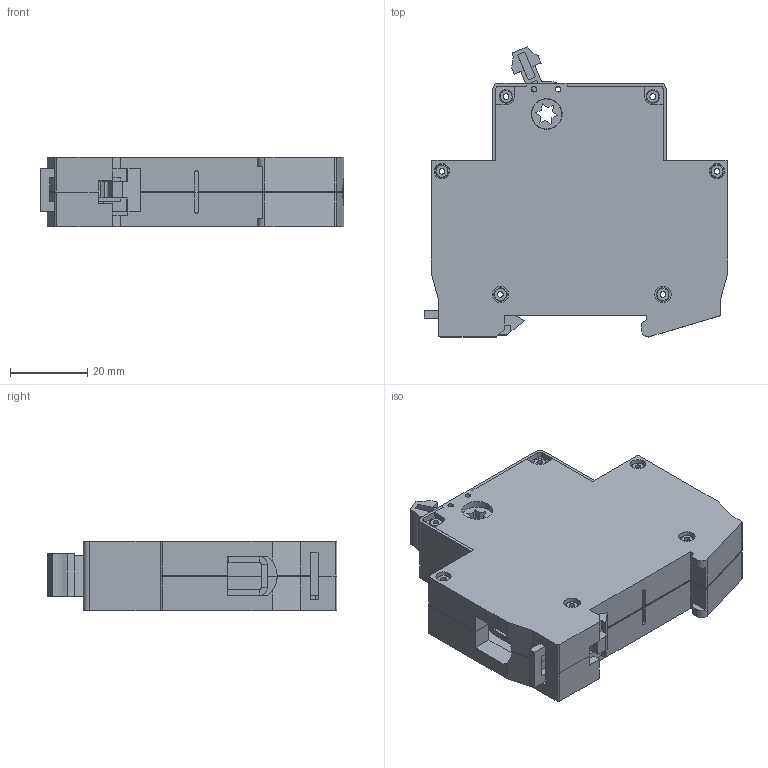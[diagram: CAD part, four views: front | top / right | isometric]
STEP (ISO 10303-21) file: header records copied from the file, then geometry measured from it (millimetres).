
FILE_DESCRIPTION (( 'STEP AP214' ), '1' );
FILE_NAME ('ÂÍ-32 1 ïîëþñ.STEP', '2022-11-18T10:06:03', ( '' ), ( '' ), 'SwSTEP 2.0', 'SolidWorks 2018', '' );
FILE_SCHEMA (( 'AUTOMOTIVE_DESIGN' ));
Length unit declared in the file: millimetre
Products named in the file (10): öâåòíàÿ âñòàâêà_§¥«ñ­ ï; Áîêîâèíà ïðàâàÿ ÂÍ32 Changan(4.04.2022); 青觌屣赅 峦32 Changan_15; Êîëîäêà ÂÍ32 (4.04.2022); Çàùåëêà (ÂÀ47-29 Changan) 04.2022; 鎔艜 蟬32 (4.04.2022); Ðó÷êà ÂÍ32 Changan; 褪浯 糂粲濱red; Áîêîâèíà ëåâàÿ ÂÍ32 Changan(4.04.2022); ÂÍ-32 1 ïîëþñ
Assembly tree (16 placements, depth 2):
  ÂÍ-32 1 ïîëþñ
    Áîêîâèíà ïðàâàÿ ÂÍ32 Changan(4.04.2022)
    Áîêîâèíà ëåâàÿ ÂÍ32 Changan(4.04.2022)
    Çàùåëêà (ÂÀ47-29 Changan) 04.2022
    Ðó÷êà ÂÍ32 Changan
    鎔艜 蟬32 (4.04.2022)  x2
    Êîëîäêà ÂÍ32 (4.04.2022)  x2
    青觌屣赅 峦32 Changan_15  x6
    öâåòíàÿ âñòàâêà_§¥«ñ­ ï
    褪浯 糂粲濱red
Bounding box: 78.8 x 75.18 x 18 mm (x, y, z)
Volume: 56332.3 mm3; surface area: 34011.2 mm2
Topology: 16 solids, 16 shells, 920 faces, 2406 edges, 1539 vertices
Faces by surface type: plane 594, cylinder 240, torus 80, cone 6
Entity records: 20765 total; most frequent: CARTESIAN_POINT 3665, ORIENTED_EDGE 3500, DIRECTION 3427, EDGE_CURVE 1750, LINE 1317, VECTOR 1317, VERTEX_POINT 1141, AXIS2_PLACEMENT_3D 1055
